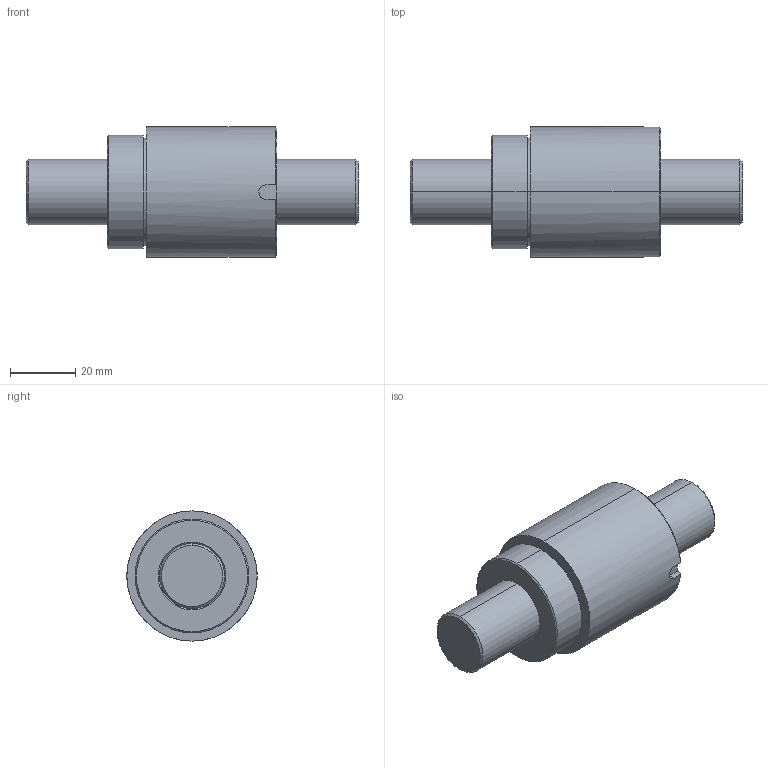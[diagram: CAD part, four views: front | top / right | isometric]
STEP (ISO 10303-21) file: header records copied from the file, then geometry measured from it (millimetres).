
FILE_DESCRIPTION(('no description'),'unknown implementation level');
FILE_NAME('R20_05T4_SE_102_102_0_023_2.stp',' ',('HIWIN GmbH'),('CADClick - KiM GmbH - www.kimweb.de'),'unknown preprocess','ACIS','unknown authorization');
FILE_SCHEMA(('automotive_design'));
Length unit declared in the file: millimetre
Products named in the file (2): R20-05T4-SE 102 102 0.023; R20-05T4-SE 102 102 0.023_1
Bounding box: 102 x 40 x 40 mm (x, y, z)
Volume: 77273.9 mm3; surface area: 18646.9 mm2
Topology: 2 solids, 2 shells, 40 faces, 90 edges, 56 vertices
Faces by surface type: cone 14, cylinder 14, plane 12
Entity records: 2275 total; most frequent: CARTESIAN_POINT 264, DIRECTION 206, STYLED_ITEM 188, PRESENTATION_STYLE_ASSIGNMENT 188, COLOUR_RGB 188, ORIENTED_EDGE 180, EDGE_CURVE 90, CURVE_STYLE 90
